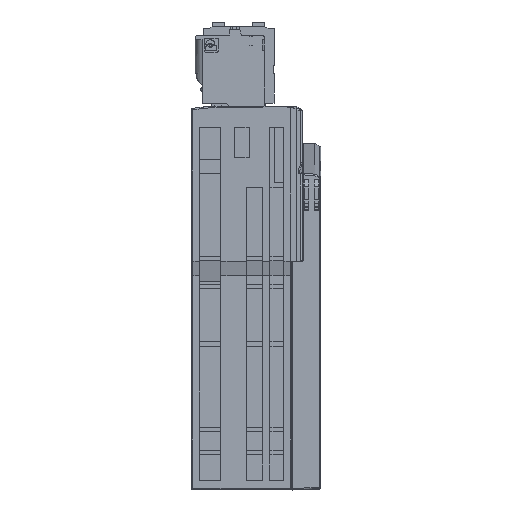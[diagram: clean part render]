
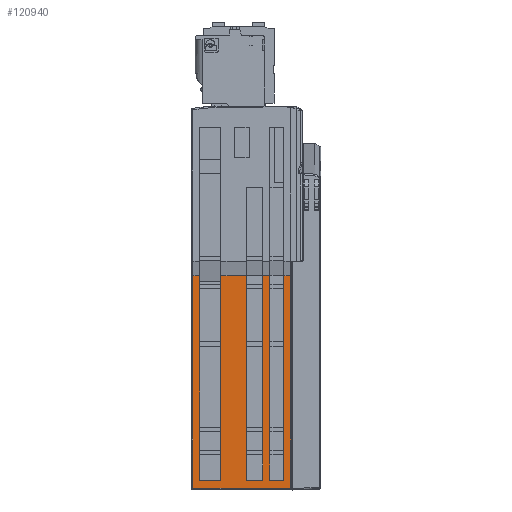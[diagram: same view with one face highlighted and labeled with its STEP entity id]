
A CAD part, front view. The second image highlights one B-rep face of the part: STEP entity #120940.
In plain terms, the highlighted planar face has unit normal (0, -1, 0).
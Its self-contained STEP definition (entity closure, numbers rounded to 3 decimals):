
#22705=DIRECTION('',(-1.,0.,0.));
#22706=VECTOR('',#22705,5.5);
#22707=CARTESIAN_POINT('',(27.9,-50.,46.306));
#22708=LINE('',#22707,#22706);
#22717=DIRECTION('',(0.,0.,-1.));
#22718=VECTOR('',#22717,46.006);
#22719=CARTESIAN_POINT('',(16.3,-50.,46.306));
#22720=LINE('',#22719,#22718);
#22721=DIRECTION('',(1.,0.,0.));
#22722=VECTOR('',#22721,4.6);
#22723=CARTESIAN_POINT('',(17.8,-50.,2.));
#22724=LINE('',#22723,#22722);
#22725=DIRECTION('',(0.,0.,1.));
#22726=VECTOR('',#22725,5.5);
#22727=CARTESIAN_POINT('',(31.45,-50.,2.));
#22728=LINE('',#22727,#22726);
#22729=DIRECTION('',(-1.,0.,0.));
#22730=VECTOR('',#22729,0.05);
#22731=CARTESIAN_POINT('',(31.45,-50.,7.5));
#22732=LINE('',#22731,#22730);
#22733=DIRECTION('',(-1.,0.,0.));
#22734=VECTOR('',#22733,0.05);
#22735=CARTESIAN_POINT('',(33.,-50.,7.5));
#22736=LINE('',#22735,#22734);
#22737=DIRECTION('',(0.,0.,-1.));
#22738=VECTOR('',#22737,5.5);
#22739=CARTESIAN_POINT('',(32.95,-50.,7.5));
#22740=LINE('',#22739,#22738);
#22741=DIRECTION('',(0.,0.,1.));
#22742=VECTOR('',#22741,46.006);
#22743=CARTESIAN_POINT('',(37.5,-50.,0.3));
#22744=LINE('',#22743,#22742);
#22749=DIRECTION('',(1.,0.,0.));
#22750=VECTOR('',#22749,21.2);
#22751=CARTESIAN_POINT('',(16.3,-50.,0.3));
#22752=LINE('',#22751,#22750);
#27177=DIRECTION('',(-1.,0.,0.));
#27178=VECTOR('',#27177,1.5);
#27179=CARTESIAN_POINT('',(37.5,-50.,46.306));
#27180=LINE('',#27179,#27178);
#27245=DIRECTION('',(0.,0.,-1.));
#27246=VECTOR('',#27245,44.306);
#27247=CARTESIAN_POINT('',(36.,-50.,46.306));
#27248=LINE('',#27247,#27246);
#27257=DIRECTION('',(-1.,0.,0.));
#27258=VECTOR('',#27257,3.05);
#27259=CARTESIAN_POINT('',(36.,-50.,2.));
#27260=LINE('',#27259,#27258);
#27293=DIRECTION('',(0.,0.,1.));
#27294=VECTOR('',#27293,38.806);
#27295=CARTESIAN_POINT('',(33.,-50.,7.5));
#27296=LINE('',#27295,#27294);
#27561=DIRECTION('',(-1.,0.,0.));
#27562=VECTOR('',#27561,1.6);
#27563=CARTESIAN_POINT('',(33.,-50.,46.306));
#27564=LINE('',#27563,#27562);
#27613=DIRECTION('',(0.,0.,-1.));
#27614=VECTOR('',#27613,38.806);
#27615=CARTESIAN_POINT('',(31.4,-50.,46.306));
#27616=LINE('',#27615,#27614);
#27669=DIRECTION('',(-1.,0.,0.));
#27670=VECTOR('',#27669,3.55);
#27671=CARTESIAN_POINT('',(31.45,-50.,2.));
#27672=LINE('',#27671,#27670);
#27681=DIRECTION('',(0.,0.,1.));
#27682=VECTOR('',#27681,44.306);
#27683=CARTESIAN_POINT('',(27.9,-50.,2.));
#27684=LINE('',#27683,#27682);
#32673=DIRECTION('',(-1.,0.,0.));
#32674=VECTOR('',#32673,1.5);
#32675=CARTESIAN_POINT('',(17.8,-50.,46.306));
#32676=LINE('',#32675,#32674);
#32777=DIRECTION('',(0.,0.,1.));
#32778=VECTOR('',#32777,44.306);
#32779=CARTESIAN_POINT('',(17.8,-50.,2.));
#32780=LINE('',#32779,#32778);
#32797=DIRECTION('',(0.,0.,-1.));
#32798=VECTOR('',#32797,44.306);
#32799=CARTESIAN_POINT('',(22.4,-50.,46.306));
#32800=LINE('',#32799,#32798);
#73589=CARTESIAN_POINT('',(37.5,-50.,46.306));
#73591=VERTEX_POINT('',#73589);
#73726=CARTESIAN_POINT('',(36.,-50.,46.306));
#73727=VERTEX_POINT('',#73726);
#73728=CARTESIAN_POINT('',(33.,-50.,46.306));
#73729=CARTESIAN_POINT('',(31.4,-50.,46.306));
#73730=VERTEX_POINT('',#73728);
#73731=VERTEX_POINT('',#73729);
#73861=CARTESIAN_POINT('',(27.9,-50.,46.306));
#73863=VERTEX_POINT('',#73861);
#74040=CARTESIAN_POINT('',(27.9,-50.,2.));
#74041=VERTEX_POINT('',#74040);
#74042=CARTESIAN_POINT('',(36.,-50.,2.));
#74043=VERTEX_POINT('',#74042);
#74060=CARTESIAN_POINT('',(33.,-50.,7.5));
#74061=CARTESIAN_POINT('',(32.95,-50.,7.5));
#74062=VERTEX_POINT('',#74060);
#74063=VERTEX_POINT('',#74061);
#74064=CARTESIAN_POINT('',(32.95,-50.,2.));
#74065=VERTEX_POINT('',#74064);
#74066=CARTESIAN_POINT('',(31.45,-50.,2.));
#74067=CARTESIAN_POINT('',(31.45,-50.,7.5));
#74068=VERTEX_POINT('',#74066);
#74069=VERTEX_POINT('',#74067);
#74070=CARTESIAN_POINT('',(31.4,-50.,7.5));
#74071=VERTEX_POINT('',#74070);
#75644=CARTESIAN_POINT('',(37.5,-50.,0.3));
#75646=VERTEX_POINT('',#75644);
#76551=CARTESIAN_POINT('',(22.4,-50.,46.306));
#76553=VERTEX_POINT('',#76551);
#76555=CARTESIAN_POINT('',(17.8,-50.,46.306));
#76557=VERTEX_POINT('',#76555);
#77356=CARTESIAN_POINT('',(17.8,-50.,2.));
#77357=CARTESIAN_POINT('',(22.4,-50.,2.));
#77358=VERTEX_POINT('',#77356);
#77359=VERTEX_POINT('',#77357);
#77986=CARTESIAN_POINT('',(16.3,-50.,46.306));
#77987=VERTEX_POINT('',#77986);
#77992=CARTESIAN_POINT('',(16.3,-50.,0.3));
#77993=VERTEX_POINT('',#77992);
#120894=CARTESIAN_POINT('',(0.,-50.,0.));
#120895=DIRECTION('',(0.,-1.,0.));
#120896=DIRECTION('',(1.,0.,0.));
#120897=AXIS2_PLACEMENT_3D('',#120894,#120895,#120896);
#120898=PLANE('',#120897);
#120900=ORIENTED_EDGE('',*,*,#120899,.F.);
#120902=ORIENTED_EDGE('',*,*,#120901,.F.);
#120904=ORIENTED_EDGE('',*,*,#120903,.F.);
#120906=ORIENTED_EDGE('',*,*,#120905,.F.);
#120908=ORIENTED_EDGE('',*,*,#120907,.T.);
#120910=ORIENTED_EDGE('',*,*,#120909,.F.);
#120911=ORIENTED_EDGE('',*,*,#120884,.F.);
#120913=ORIENTED_EDGE('',*,*,#120912,.F.);
#120915=ORIENTED_EDGE('',*,*,#120914,.F.);
#120917=ORIENTED_EDGE('',*,*,#120916,.T.);
#120919=ORIENTED_EDGE('',*,*,#120918,.T.);
#120921=ORIENTED_EDGE('',*,*,#120920,.F.);
#120923=ORIENTED_EDGE('',*,*,#120922,.F.);
#120925=ORIENTED_EDGE('',*,*,#120924,.F.);
#120927=ORIENTED_EDGE('',*,*,#120926,.T.);
#120929=ORIENTED_EDGE('',*,*,#120928,.T.);
#120931=ORIENTED_EDGE('',*,*,#120930,.F.);
#120933=ORIENTED_EDGE('',*,*,#120932,.F.);
#120935=ORIENTED_EDGE('',*,*,#120934,.F.);
#120937=ORIENTED_EDGE('',*,*,#120936,.F.);
#120938=EDGE_LOOP('',(#120900,#120902,#120904,#120906,#120908,#120910,#120911,
#120913,#120915,#120917,#120919,#120921,#120923,#120925,#120927,#120929,#120931,
#120933,#120935,#120937));
#120939=FACE_OUTER_BOUND('',#120938,.F.);
#120884=EDGE_CURVE('',#73863,#76553,#22708,.T.);
#120899=EDGE_CURVE('',#77993,#75646,#22752,.T.);
#120901=EDGE_CURVE('',#77987,#77993,#22720,.T.);
#120903=EDGE_CURVE('',#76557,#77987,#32676,.T.);
#120905=EDGE_CURVE('',#77358,#76557,#32780,.T.);
#120907=EDGE_CURVE('',#77358,#77359,#22724,.T.);
#120909=EDGE_CURVE('',#76553,#77359,#32800,.T.);
#120912=EDGE_CURVE('',#74041,#73863,#27684,.T.);
#120914=EDGE_CURVE('',#74068,#74041,#27672,.T.);
#120916=EDGE_CURVE('',#74068,#74069,#22728,.T.);
#120918=EDGE_CURVE('',#74069,#74071,#22732,.T.);
#120920=EDGE_CURVE('',#73731,#74071,#27616,.T.);
#120922=EDGE_CURVE('',#73730,#73731,#27564,.T.);
#120924=EDGE_CURVE('',#74062,#73730,#27296,.T.);
#120926=EDGE_CURVE('',#74062,#74063,#22736,.T.);
#120928=EDGE_CURVE('',#74063,#74065,#22740,.T.);
#120930=EDGE_CURVE('',#74043,#74065,#27260,.T.);
#120932=EDGE_CURVE('',#73727,#74043,#27248,.T.);
#120934=EDGE_CURVE('',#73591,#73727,#27180,.T.);
#120936=EDGE_CURVE('',#75646,#73591,#22744,.T.);
#120940=ADVANCED_FACE('',(#120939),#120898,.T.);
